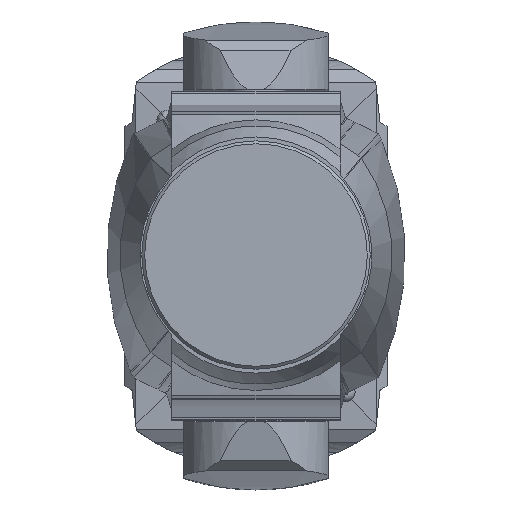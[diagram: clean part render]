
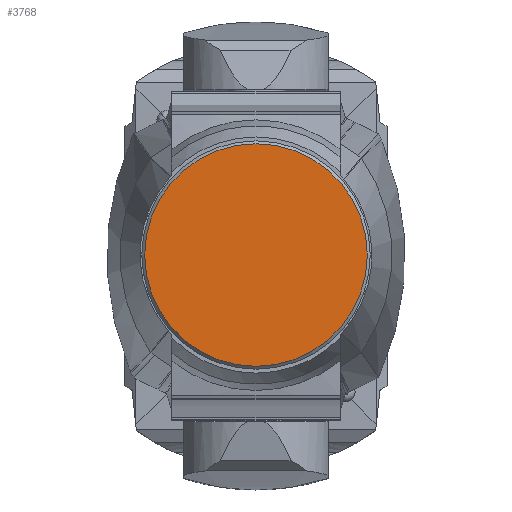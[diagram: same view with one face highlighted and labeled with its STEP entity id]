
A CAD part, top view. The second image highlights one B-rep face of the part: STEP entity #3768.
In plain terms, the highlighted planar face has unit normal (0, 0, 1).
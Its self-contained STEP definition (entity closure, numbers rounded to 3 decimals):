
#138=CIRCLE('',#4060,96.002);
#221=PLANE('',#4059);
#1962=ORIENTED_EDGE('',*,*,#2515,.T.);
#2515=EDGE_CURVE('',#2883,#2883,#138,.F.);
#2883=VERTEX_POINT('',#8109);
#3257=EDGE_LOOP('',(#1962));
#3488=FACE_BOUND('',#3257,.T.);
#3768=ADVANCED_FACE('',(#3488),#221,.F.);
#4059=AXIS2_PLACEMENT_3D('',#8107,#4855,#4856);
#4060=AXIS2_PLACEMENT_3D('',#8108,#4857,#4858);
#4855=DIRECTION('',(0.,0.,-1.));
#4856=DIRECTION('',(-1.,0.,0.));
#4857=DIRECTION('',(0.,0.,-1.));
#4858=DIRECTION('',(-1.,0.,0.));
#8107=CARTESIAN_POINT('',(0.,0.,349.5));
#8108=CARTESIAN_POINT('',(0.,0.,349.5));
#8109=CARTESIAN_POINT('',(-96.002,0.,349.5));
